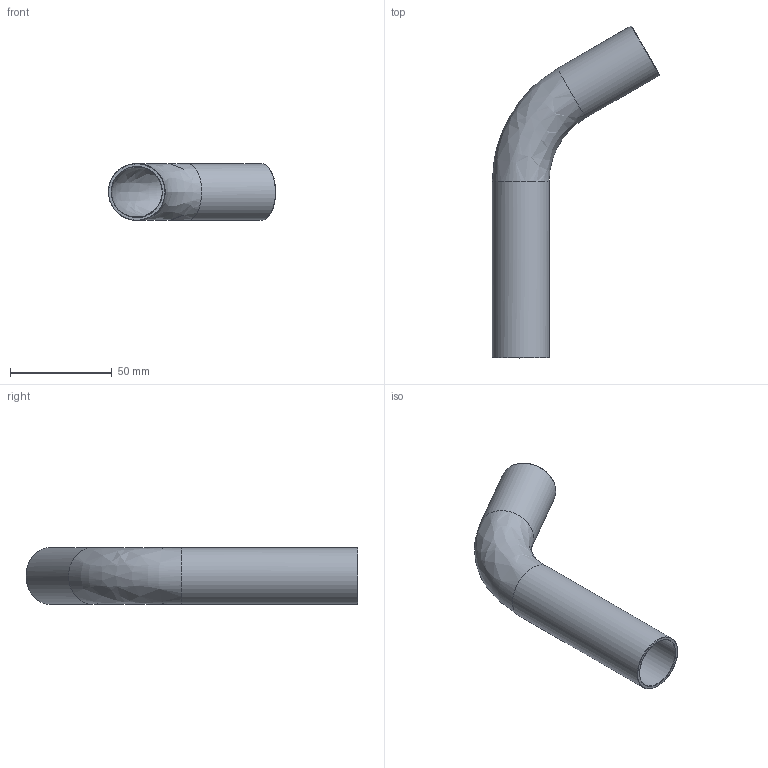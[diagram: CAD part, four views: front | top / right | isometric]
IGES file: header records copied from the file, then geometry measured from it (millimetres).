
Global section: file name: C72AF; native system: Autodesk Inventor 2023; preprocessor: unknown; author: lvalentini; date: 20230921.121017; units: millimetre
Bounding box: 82.42 x 163.52 x 28 mm (x, y, z)
Volume: 22791.9 mm3; surface area: 30503.2 mm2
Topology: 1 solids, 1 shells, 12 faces, 26 edges, 16 vertices
Faces by surface type: bspline 12
